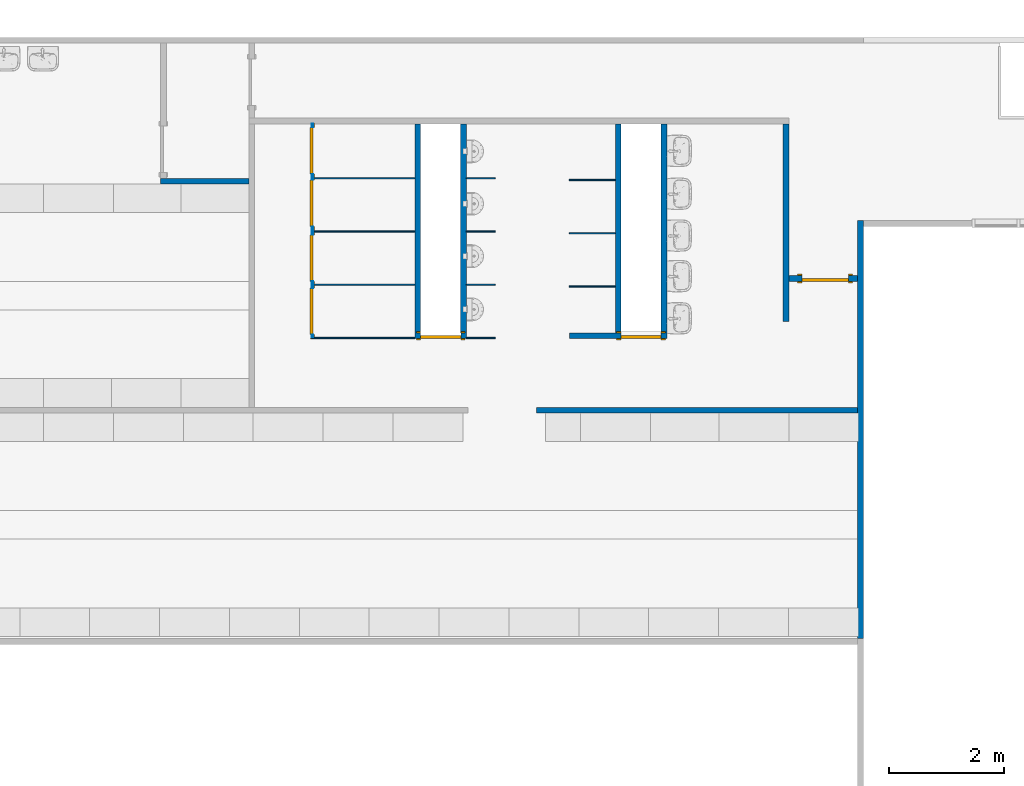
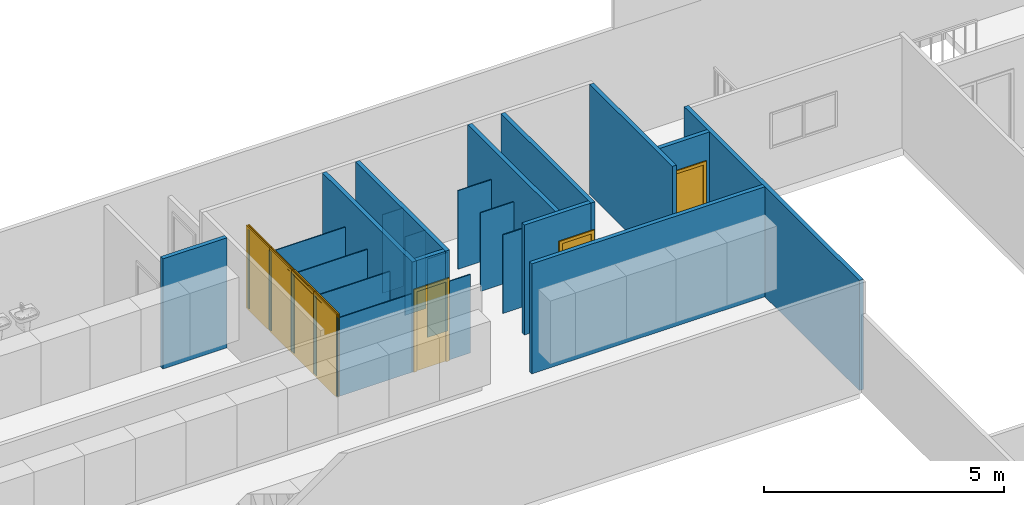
# One storey, part 6 of 14: 23 walls, 7 doors, 11 openings.
"""IFC2X3 building model written with IfcOpenShell, lengths in millimetres."""

import ifcopenshell
import ifcopenshell.guid

model = None  # the IFC model being written
_history = None  # IfcOwnerHistory: only IFC2X3 demands one
_inside = {}  # id of a spatial element -> (the spatial element, [elements in it])
_under = {}  # id of a project, library or spatial element -> (it, [spatial elements below it])
_declared = {}  # id of a project -> (the project, [libraries it declares])
_typed = {}  # id of a type object -> (the type object, [elements of that type])
_made_of = {}  # id of a material, layer set ... -> (it, [elements and type objects made of it])


def new_model(schema):
    """Start an empty IFC model of exactly this schema.

    Asked for "IFC4X3", IfcOpenShell would pick the latest addendum, in which some entities
    have other attributes; the version numbers below select the first issue.
    IFC2X3 requires an IfcOwnerHistory on every rooted entity: one is made here for all.
    """
    global model, _history
    if schema == "IFC4X3":
        model = ifcopenshell.file(schema_version=(4, 3, 0, 0))
    else:
        model = ifcopenshell.file(schema=schema)
    _inside.clear()
    _under.clear()
    _declared.clear()
    _typed.clear()
    _made_of.clear()
    _history = None
    if model.schema == "IFC2X3":
        org = make("IfcOrganization", Name="unknown")
        user = make(
            "IfcPersonAndOrganization",
            ThePerson=make("IfcPerson", FamilyName="unknown"),
            TheOrganization=org,
        )
        app = make(
            "IfcApplication",
            ApplicationDeveloper=org,
            Version="unknown",
            ApplicationFullName="unknown",
            ApplicationIdentifier="unknown",
        )
        _history = make(
            "IfcOwnerHistory",
            OwningUser=user,
            OwningApplication=app,
            ChangeAction="ADDED",
            CreationDate=0,
        )
    return model


def make(cls, **values):
    """One entity of the class cls with the attributes given. An attribute that is None is left unset."""
    return model.create_entity(
        cls, **{name: value for name, value in values.items() if value is not None}
    )


def entity(cls, *values):
    """Any entity or typed value of the class cls, its attributes in the order of the schema. None: left unset."""
    e = model.create_entity(cls)
    for i, value in enumerate(values):
        if value is not None:
            e[i] = value
    return e


def rooted(cls, **values):
    """An entity with a GlobalId (a new one), such as an element, a storey or a relation."""
    return make(cls, GlobalId=ifcopenshell.guid.new(), OwnerHistory=_history, **values)


def si_unit(unit_type, name, prefix=None):
    """IfcSIUnit, for example si_unit("LENGTHUNIT", "METRE", prefix="MILLI")."""
    return make("IfcSIUnit", UnitType=unit_type, Prefix=prefix, Name=name)


def converted_unit(unit_type, name, factor, base, dimensions=None, offset=None):
    """IfcConversionBasedUnit, such as the inch: factor (a typed value) times the base unit."""
    return make(
        "IfcConversionBasedUnit"
        if offset is None
        else "IfcConversionBasedUnitWithOffset",
        ConversionOffset=offset,
        Dimensions=None
        if dimensions is None
        else entity("IfcDimensionalExponents", *dimensions),
        UnitType=unit_type,
        Name=name,
        ConversionFactor=make(
            "IfcMeasureWithUnit", ValueComponent=factor, UnitComponent=base
        ),
    )


def derived_unit(unit_type, elements):
    """IfcDerivedUnit: a product of units, each with its exponent."""
    return make(
        "IfcDerivedUnit",
        Elements=[
            make("IfcDerivedUnitElement", Unit=unit, Exponent=power)
            for unit, power in elements
        ],
        UnitType=unit_type,
    )


def assignment(units):
    """IfcUnitAssignment: the units of a project."""
    return None if units is None else make("IfcUnitAssignment", Units=units)


def point(xyz):
    """IfcCartesianPoint."""
    return None if xyz is None else make("IfcCartesianPoint", Coordinates=xyz)


def direction(xyz):
    """IfcDirection."""
    return None if xyz is None else make("IfcDirection", DirectionRatios=xyz)


def frame(location, z_axis=None, x_axis=None):
    """IfcAxis2Placement3D, a coordinate frame: its origin and axes. An axis left out is left unset."""
    return make(
        "IfcAxis2Placement3D",
        Location=point(location),
        Axis=direction(z_axis),
        RefDirection=direction(x_axis),
    )


def frame_2d(location, x_axis=None):
    """IfcAxis2Placement2D, a coordinate frame in the plane: its origin and x axis."""
    return make(
        "IfcAxis2Placement2D", Location=point(location), RefDirection=direction(x_axis)
    )


def origin():
    """The frame at (0, 0, 0) with its axes left unset."""
    return frame((0.0, 0.0, 0.0))


def origin_2d_with_axis():
    """The frame at (0, 0) in the plane with the x axis (1, 0) written out."""
    return frame_2d((0.0, 0.0), x_axis=(1.0, 0.0))


def place(relative_to, where):
    """IfcLocalPlacement: puts the frame where relative to a parent placement (None: the world)."""
    return make(
        "IfcLocalPlacement", PlacementRelTo=relative_to, RelativePlacement=where
    )


def context(
    kind, dimensions, precision=None, world=None, true_north=None, identifier=None
):
    """IfcGeometricRepresentationContext, for example the 3D "Model" context."""
    return make(
        "IfcGeometricRepresentationContext",
        ContextIdentifier=identifier,
        ContextType=kind,
        CoordinateSpaceDimension=dimensions,
        Precision=precision,
        WorldCoordinateSystem=world,
        TrueNorth=true_north,
    )


def subcontext(parent, identifier, kind, view, scale=None):
    """IfcGeometricRepresentationSubContext, for example "Body" below "Model"."""
    return make(
        "IfcGeometricRepresentationSubContext",
        ContextIdentifier=identifier,
        ContextType=kind,
        ParentContext=parent,
        TargetScale=scale,
        TargetView=view,
    )


def project(units=None, contexts=None):
    """IfcProject with its units and contexts."""
    return rooted(
        "IfcProject",
        Name="project",
        RepresentationContexts=contexts,
        UnitsInContext=assignment(units),
    )


def spatial(cls, under=None, at=None, **own):
    """A site, building, storey or space (cls), placed at a placement, below another one or the project."""
    s = rooted(cls, ObjectPlacement=at, **own)
    if under is not None:
        _under.setdefault(under.id(), (under, []))[1].append(s)
    return s


def polyline(points):
    """IfcPolyline through the points."""
    return make("IfcPolyline", Points=[point(p) for p in points])


def profile(cls, at=None, kind="AREA", **sizes):
    """A parametric profile (cls). Its sizes go by their IFC names, for example OverallWidth=200.0."""
    return make(cls, ProfileType=kind, Position=at, **sizes)


def rectangle(**sizes):
    """IfcRectangleProfileDef."""
    return profile("IfcRectangleProfileDef", **sizes)


def outline(outer, holes=None, kind="AREA"):
    """IfcArbitraryClosedProfileDef: a profile drawn as a closed curve; with holes, ...WithVoids."""
    if holes is None:
        return make("IfcArbitraryClosedProfileDef", ProfileType=kind, OuterCurve=outer)
    return make(
        "IfcArbitraryProfileDefWithVoids",
        ProfileType=kind,
        OuterCurve=outer,
        InnerCurves=holes,
    )


def extrude(swept, where, along, depth):
    """IfcExtrudedAreaSolid: the profile swept, set in the frame where, extruded along a direction by depth."""
    return make(
        "IfcExtrudedAreaSolid",
        SweptArea=swept,
        Position=where,
        ExtrudedDirection=direction(along),
        Depth=depth,
    )


def shape(context_of_items, identifier, shape_type, items):
    """IfcShapeRepresentation: the items that make up one representation, for example the "Body"."""
    return make(
        "IfcShapeRepresentation",
        ContextOfItems=context_of_items,
        RepresentationIdentifier=identifier,
        RepresentationType=shape_type,
        Items=items,
    )


def source(mapping_origin, context_of_items, identifier, shape_type, items):
    """IfcRepresentationMap: a shape defined once, which mapped items show again and again."""
    return make(
        "IfcRepresentationMap",
        MappingOrigin=mapping_origin,
        MappedRepresentation=shape(context_of_items, identifier, shape_type, items),
    )


def transform(
    local_origin,
    x_axis=None,
    y_axis=None,
    z_axis=None,
    scale=None,
    scale2=None,
    scale3=None,
    uniform=True,
):
    """IfcCartesianTransformationOperator3D, or its non-uniform kind. x_axis, y_axis, z_axis: its Axis1, 2, 3."""
    if uniform:
        return make(
            "IfcCartesianTransformationOperator3D",
            Axis1=direction(x_axis),
            Axis2=direction(y_axis),
            LocalOrigin=point(local_origin),
            Scale=scale,
            Axis3=direction(z_axis),
        )
    return make(
        "IfcCartesianTransformationOperator3DnonUniform",
        Axis1=direction(x_axis),
        Axis2=direction(y_axis),
        LocalOrigin=point(local_origin),
        Scale=scale,
        Axis3=direction(z_axis),
        Scale2=scale2,
        Scale3=scale3,
    )


def mapped(mapping_source, mapping_target):
    """IfcMappedItem: shows the shape of a source again, moved by a transform."""
    return make(
        "IfcMappedItem", MappingSource=mapping_source, MappingTarget=mapping_target
    )


def material(Name=None, Category=None):
    """IfcMaterial."""
    return make("IfcMaterial", Name=Name, Category=Category)


def material_list(materials):
    """IfcMaterialList."""
    return make("IfcMaterialList", Materials=materials)


def layer(
    of_material, thickness, ventilated=None, Name=None, Category=None, Priority=None
):
    """IfcMaterialLayer: one layer of a wall or slab, of a material (None: an air gap)."""
    return make(
        "IfcMaterialLayer",
        Material=of_material,
        LayerThickness=thickness,
        IsVentilated=ventilated,
        Name=Name,
        Category=Category,
        Priority=Priority,
    )


def layer_set(layers, Name=None):
    """IfcMaterialLayerSet."""
    return make("IfcMaterialLayerSet", MaterialLayers=layers, LayerSetName=Name)


def layer_usage(for_layer_set, set_direction, sense, offset, extent=None):
    """IfcMaterialLayerSetUsage: how a layer set lies in its element."""
    return make(
        "IfcMaterialLayerSetUsage",
        ForLayerSet=for_layer_set,
        LayerSetDirection=set_direction,
        DirectionSense=sense,
        OffsetFromReferenceLine=offset,
        ReferenceExtent=extent,
    )


def made_of(thing, what):
    """Note that an element or type object is made of a material, layer set ...; save() writes the relation."""
    if what is not None:
        _made_of.setdefault(what.id(), (what, []))[1].append(thing)
    return thing


def type_object(cls, material=None, **own):
    """A type object (cls), such as IfcWallType, which elements share."""
    return made_of(rooted(cls, **own), material)


def type_shapes(of_type, sources):
    """Give a type object the sources (RepresentationMaps) that its elements show as mapped items."""
    of_type.RepresentationMaps = sources


def element(
    cls,
    number,
    at=None,
    inside=None,
    cuts=None,
    type_object=None,
    material=None,
    context=None,
    identifier="Body",
    shape_type=None,
    held_by="IfcProductDefinitionShape",
    body=None,
    shapes=None,
    **own,
):
    """One element of the class cls, such as IfcWall. Its Tag is "e" and its number.

    at: its placement. inside: the storey or other place that contains it. cuts: it is an
    opening in that element (IfcRelVoidsElement). A single representation is given by context,
    identifier, shape_type and body (its items); several are given by shapes. held_by: the class
    of the entity that holds the representations. save() writes the other relations.
    """
    e = rooted(cls, Tag="e%d" % number, ObjectPlacement=at, **own)
    if body is not None:
        shapes = [shape(context, identifier, shape_type, body)]
    if shapes is not None:
        e.Representation = make(held_by, Representations=shapes)
    if inside is not None:
        _inside.setdefault(inside.id(), (inside, []))[1].append(e)
    if cuts is not None:
        rooted(
            "IfcRelVoidsElement", RelatingBuildingElement=cuts, RelatedOpeningElement=e
        )
    if type_object is not None:
        _typed.setdefault(type_object.id(), (type_object, []))[1].append(e)
    return made_of(e, material)


def fill(opening, filler):
    """IfcRelFillsElement: the door or window that sits in an opening."""
    return rooted(
        "IfcRelFillsElement",
        RelatingOpeningElement=opening,
        RelatedBuildingElement=filler,
    )


def aggregate(whole, parts):
    """IfcRelAggregates: a whole, such as a stair, and the parts it consists of."""
    return rooted("IfcRelAggregates", RelatingObject=whole, RelatedObjects=parts)


def save(model, path):
    """Write the relations noted so far, then the file.

    IfcRelAggregates (storeys below a building ...), IfcRelContainedInSpatialStructure (elements
    in a storey), IfcRelDefinesByType, IfcRelAssociatesMaterial and IfcRelDeclares: one each for
    every whole, place, type object, material and project.
    """
    for whole, parts in _under.values():
        aggregate(whole, parts)
    for where, things in _inside.values():
        rooted(
            "IfcRelContainedInSpatialStructure",
            RelatedElements=things,
            RelatingStructure=where,
        )
    for kind, things in _typed.values():
        rooted("IfcRelDefinesByType", RelatedObjects=things, RelatingType=kind)
    for what, things in _made_of.values():
        rooted("IfcRelAssociatesMaterial", RelatedObjects=things, RelatingMaterial=what)
    for by, libraries in _declared.values():
        rooted("IfcRelDeclares", RelatingContext=by, RelatedDefinitions=libraries)
    model.write(path)


model = new_model("IFC2X3")

# Units and contexts
model_context = context("Model", 3, precision=0.01, world=origin(), true_north=direction((4.05803320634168e-15, -1.0)))
body_context = subcontext(model_context, "Body", "Model", "MODEL_VIEW")
ifc_project = project(units=[si_unit("LENGTHUNIT", "METRE", prefix="MILLI"), si_unit("AREAUNIT", "SQUARE_METRE"), si_unit("VOLUMEUNIT", "CUBIC_METRE"), converted_unit("PLANEANGLEUNIT", "DEGREE", entity("IfcRatioMeasure", 0.0174532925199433), si_unit("PLANEANGLEUNIT", "RADIAN"), dimensions=[0, 0, 0, 0, 0, 0, 0]), si_unit("MASSUNIT", "GRAM", prefix="KILO"), derived_unit("MASSDENSITYUNIT", [(si_unit("MASSUNIT", "GRAM", prefix="KILO"), 1), (si_unit("LENGTHUNIT", "METRE"), -3)]), si_unit("TIMEUNIT", "SECOND"), si_unit("FREQUENCYUNIT", "HERTZ"), si_unit("THERMODYNAMICTEMPERATUREUNIT", "DEGREE_CELSIUS"), derived_unit("THERMALTRANSMITTANCEUNIT", [(si_unit("MASSUNIT", "GRAM", prefix="KILO"), 1), (si_unit("THERMODYNAMICTEMPERATUREUNIT", "KELVIN"), -1), (si_unit("TIMEUNIT", "SECOND"), -3)]), derived_unit("VOLUMETRICFLOWRATEUNIT", [(si_unit("LENGTHUNIT", "METRE"), 3), (si_unit("TIMEUNIT", "SECOND"), -1)]), si_unit("ELECTRICCURRENTUNIT", "AMPERE"), si_unit("ELECTRICVOLTAGEUNIT", "VOLT"), si_unit("POWERUNIT", "WATT"), si_unit("FORCEUNIT", "NEWTON", prefix="KILO"), si_unit("ILLUMINANCEUNIT", "LUX"), si_unit("LUMINOUSFLUXUNIT", "LUMEN"), si_unit("LUMINOUSINTENSITYUNIT", "CANDELA"), derived_unit("USERDEFINED", [(si_unit("MASSUNIT", "GRAM", prefix="KILO"), -1), (si_unit("LENGTHUNIT", "METRE"), -2), (si_unit("TIMEUNIT", "SECOND"), 3), (si_unit("LUMINOUSFLUXUNIT", "LUMEN"), 1)]), derived_unit("LINEARVELOCITYUNIT", [(si_unit("LENGTHUNIT", "METRE"), 1), (si_unit("TIMEUNIT", "SECOND"), -1)]), si_unit("PRESSUREUNIT", "PASCAL"), derived_unit("USERDEFINED", [(si_unit("LENGTHUNIT", "METRE"), -2), (si_unit("MASSUNIT", "GRAM", prefix="KILO"), 1), (si_unit("TIMEUNIT", "SECOND"), -2)])], contexts=[model_context])

# Site, building, storey
site_placement = place(None, frame((927466.849349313, 583801.882853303, 0.0), z_axis=(0.0, 0.0, 1.0), x_axis=(-1.0, 0.0, 0.0)))
site = spatial("IfcSite", under=ifc_project, at=site_placement, Name="Surface", CompositionType="ELEMENT")
building_placement = place(site_placement, origin())
building = spatial("IfcBuilding", under=site, at=building_placement, CompositionType="ELEMENT")
storey_placement = place(building_placement, frame((0.0, 0.0, 48170.0)))
storey = spatial("IfcBuildingStorey", under=building, at=storey_placement, Name="First floor", CompositionType="ELEMENT", Elevation=48170.0)

# Walls
ifc_material_1 = material(Name="Isopenal")
ifc_layer_1 = layer(ifc_material_1, 100.0)
ifc_layer_set_1 = layer_set([ifc_layer_1], Name="Basic Wall:Isopanel")
ifc_layer_usage_1 = layer_usage(ifc_layer_set_1, "AXIS2", "NEGATIVE", 50.0)
wall_type_1 = type_object("IfcWallType", Name="Basic Wall:Isopanel", PredefinedType="STANDARD", material=ifc_layer_set_1)
wall_1_placement = place(storey_placement, frame((-104897.937276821, 15107.4703266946, 0.0), z_axis=(0.0, 0.0, 1.0), x_axis=(0.0, 1.0, 0.0)))
element("IfcWallStandardCase", 1, at=wall_1_placement, inside=storey, type_object=wall_type_1, material=ifc_layer_usage_1, Name="Basic Wall:Isopanel", ObjectType="Basic Wall:Isopanel", context=body_context, shape_type="SweptSolid", body=[
    extrude(rectangle(XDim=7300.00000000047, YDim=100.000000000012, at=frame_2d((3650.00000000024, 1.08002495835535e-12), x_axis=(-1.0, 0.0))), origin(), (0.0, 0.0, 1.0), 2800.0),
])
ifc_material_2 = material(Name="Partition")
ifc_layer_2 = layer(ifc_material_2, 100.0)
ifc_layer_set_2 = layer_set([ifc_layer_2], Name="Basic Wall:wall 90 Partition")
ifc_layer_usage_2 = layer_usage(ifc_layer_set_2, "AXIS2", "NEGATIVE", 50.0)
wall_type_2 = type_object("IfcWallType", Name="Basic Wall:wall 90 Partition", PredefinedType="STANDARD", material=ifc_layer_set_2)
wall_2_placement = place(storey_placement, frame((-103597.796161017, 16869.2679026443, 0.0), z_axis=(0.0, 0.0, 1.0), x_axis=(0.0, -1.0, 0.0)))
element("IfcWallStandardCase", 2, at=wall_2_placement, inside=storey, type_object=wall_type_2, material=ifc_layer_usage_2, Name="Basic Wall:wall 90 Partition", ObjectType="Basic Wall:wall 90 Partition", context=body_context, shape_type="SweptSolid", body=[
    extrude(rectangle(XDim=3450.0, YDim=100.000000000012, at=frame_2d((1725.0, -3.08730818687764e-12), x_axis=(-1.0, 0.0))), origin(), (0.0, 0.0, 1.0), 2800.0),
])

# Wall, opening, door
ifc_layer_usage_3 = layer_usage(ifc_layer_set_2, "AXIS2", "NEGATIVE", 50.0)
wall_3_placement = place(storey_placement, frame((-104847.937276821, 16119.313165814, 0.0)))
wall_3 = element("IfcWallStandardCase", 3, at=wall_3_placement, inside=storey, type_object=wall_type_2, material=ifc_layer_usage_3, Name="Basic Wall:wall 90 Partition", ObjectType="Basic Wall:wall 90 Partition", context=body_context, shape_type="SweptSolid", body=[
    extrude(rectangle(XDim=1200.14111580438, YDim=99.9999999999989, at=frame_2d((600.07055790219, -4.47641923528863e-13), x_axis=(-1.0, 0.0))), origin(), (0.0, 0.0, 1.0), 2800.0),
])
opening_1_placement = place(wall_3_placement, frame((163.641115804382, -50.0, 0.0)))
opening_1 = element("IfcOpeningElement", 4, at=opening_1_placement, cuts=wall_3, Name="M_Single-Flush:813 x 2030mm:1", ObjectType="Opening", context=body_context, shape_type="SweptSolid", body=[
    extrude(rectangle(XDim=813.0, YDim=2030.0, at=frame_2d((1015.0, 406.500000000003), x_axis=(0.0, -1.0))), frame((0.0, 0.0, 0.0), z_axis=(0.0, 1.0, 0.0), x_axis=(0.0, 0.0, 1.0)), (0.0, 0.0, 1.0), 100.0),
])
ifc_material_3 = material(Name="Door - Frame")
ifc_material_4 = material(Name="Door - Panel")
ifc_material_list_1 = material_list([ifc_material_3, ifc_material_4])
ifc_material_list_2 = material_list([ifc_material_3, ifc_material_4])
door_style_1 = type_object("IfcDoorStyle", Name="813 x 2030mm", ConstructionType="NOTDEFINED", OperationType="SINGLE_SWING_LEFT", ParameterTakesPrecedence=False, Sizeable=False, material=ifc_material_list_2)
shared_shape_1 = source(origin(), body_context, "Body", "SweptSolid", [
    extrude(outline(polyline([(-482.5, -1072.0), (482.5, -1072.0), (482.5, 1034.0), (406.5, 1034.0), (406.5, -996.0), (-406.5, -996.0), (-406.5, 1034.0), (-482.5, 1034.0), (-482.5, -1072.0)])), frame((406.5, 125.0, 1034.0), z_axis=(0.0, -1.0, 0.0), x_axis=(-1.0, 0.0, 0.0)), (0.0, 0.0, 1.0), 24.9999999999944),
    extrude(outline(polyline([(-1072.0, -482.499999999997), (1034.0, -482.499999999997), (1034.0, -406.500000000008), (-996.0, -406.500000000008), (-996.0, 406.500000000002), (1034.0, 406.500000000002), (1034.0, 482.500000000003), (-1072.0, 482.500000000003), (-1072.0, -482.499999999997)])), frame((406.499999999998, 0.0, 1034.0), z_axis=(0.0, -1.0, 0.0), x_axis=(0.0, 0.0, -1.0)), (0.0, 0.0, 1.0), 25.0000000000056),
    extrude(rectangle(XDim=813.0, YDim=51.0, at=origin_2d_with_axis()), frame((406.500000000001, 74.4999999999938, 0.0)), (0.0, 0.0, 1.0), 2030.0),
])
type_shapes(door_style_1, [shared_shape_1])
door_1_placement = place(opening_1_placement, origin())
door_1 = element("IfcDoor", 5, at=door_1_placement, inside=storey, type_object=door_style_1, material=ifc_material_list_1, Name="M_Single-Flush:813 x 2030mm", ObjectType="813 x 2030mm", OverallHeight=2030.0, OverallWidth=813.000000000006, context=body_context, shape_type="MappedRepresentation", body=[
    mapped(shared_shape_1, transform((0.0, 0.0, 0.0), scale=1.0)),
])
fill(opening_1, door_1)

# Walls
ifc_layer_usage_4 = layer_usage(ifc_layer_set_2, "AXIS2", "POSITIVE", -50.0)
wall_4_placement = place(storey_placement, frame((-99242.9194516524, 18419.2777512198, 0.0), z_axis=(0.0, 0.0, 1.0), x_axis=(-1.0, 0.0, 0.0)))
element("IfcWallStandardCase", 6, at=wall_4_placement, inside=storey, type_object=wall_type_2, material=ifc_layer_usage_4, Name="Basic Wall:wall 90 Partition", ObjectType="Basic Wall:wall 90 Partition", context=body_context, shape_type="SweptSolid", body=[
    extrude(rectangle(XDim=5605.01782516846, YDim=99.9999999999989, at=frame_2d((2802.50891258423, 3.44613226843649e-13), x_axis=(-1.0, 0.0))), origin(), (0.0, 0.0, 1.0), 2800.0),
])
ifc_layer_usage_5 = layer_usage(ifc_layer_set_2, "AXIS2", "POSITIVE", -50.0)
wall_5_placement = place(storey_placement, frame((-92674.9288686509, 14419.2762492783, 0.0), z_axis=(0.0, 0.0, 1.0), x_axis=(-1.0, 0.0, 0.0)))
element("IfcWallStandardCase", 7, at=wall_5_placement, inside=storey, type_object=wall_type_2, material=ifc_layer_usage_5, Name="Basic Wall:wall 90 Partition", ObjectType="Basic Wall:wall 90 Partition", context=body_context, shape_type="SweptSolid", body=[
    extrude(rectangle(XDim=1539.76678471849, YDim=99.9999999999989, at=frame_2d((769.883392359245, -5.61328761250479e-13), x_axis=(-1.0, 0.0))), origin(), (0.0, 0.0, 1.0), 2800.0),
])

# Wall, opening
ifc_layer_usage_6 = layer_usage(ifc_layer_set_2, "AXIS2", "NEGATIVE", 50.0)
wall_6_placement = place(storey_placement, frame((-101464.708959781, 17169.2679026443, 0.0), z_axis=(0.0, 0.0, 1.0), x_axis=(0.0, -1.0, 0.0)))
wall_6 = element("IfcWallStandardCase", 8, at=wall_6_placement, inside=storey, type_object=wall_type_2, material=ifc_layer_usage_6, Name="Basic Wall:wall 90 Partition", ObjectType="Basic Wall:wall 90 Partition", context=body_context, shape_type="SweptSolid", body=[
    extrude(rectangle(XDim=3750.0, YDim=100.000000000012, at=frame_2d((1875.0, -2.60769184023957e-12), x_axis=(-1.0, 0.0))), origin(), (0.0, 0.0, 1.0), 2800.0),
])
opening_2_placement = place(wall_6_placement, origin())
element("IfcOpeningElement", 9, at=opening_2_placement, cuts=wall_6, Name="Basic Wall:wall 90 Partition", ObjectType="Opening", context=body_context, shape_type="SweptSolid", body=[
    extrude(rectangle(XDim=2030.0, YDim=100.000000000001, at=frame_2d((1.08357767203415e-12, 4.32009983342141e-12), x_axis=(0.0, 1.0))), frame((50.0, 49.3453725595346, 1015.0), z_axis=(0.0, 1.0, 0.0), x_axis=(-1.0, 0.0, 0.0)), (0.0, 0.0, 1.0), 700.000000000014),
])

ifc_layer_usage_7 = layer_usage(ifc_layer_set_2, "AXIS2", "NEGATIVE", 50.0)
wall_7_placement = place(storey_placement, frame((-100664.708959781, 17069.2679026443, 0.0), z_axis=(0.0, 0.0, 1.0), x_axis=(0.0, -1.0, 0.0)))
wall_7 = element("IfcWallStandardCase", 10, at=wall_7_placement, inside=storey, type_object=wall_type_2, material=ifc_layer_usage_7, Name="Basic Wall:wall 90 Partition", ObjectType="Basic Wall:wall 90 Partition", context=body_context, shape_type="SweptSolid", body=[
    extrude(rectangle(XDim=3650.0, YDim=100.000000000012, at=frame_2d((1825.0, -2.76756395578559e-12), x_axis=(-1.0, 0.0))), origin(), (0.0, 0.0, 1.0), 2800.0),
])
opening_3_placement = place(wall_7_placement, origin())
element("IfcOpeningElement", 11, at=opening_3_placement, cuts=wall_7, Name="Basic Wall:wall 90 Partition", ObjectType="Opening", context=body_context, shape_type="SweptSolid", body=[
    extrude(rectangle(XDim=2030.0, YDim=100.000000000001, at=frame_2d((1.08357767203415e-12, 4.32009983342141e-12), x_axis=(0.0, 1.0))), frame((-50.0, -750.654627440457, 1015.0), z_axis=(0.0, 1.0, 0.0), x_axis=(-1.0, 0.0, 0.0)), (0.0, 0.0, 1.0), 700.000000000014),
])

ifc_layer_usage_8 = layer_usage(ifc_layer_set_2, "AXIS2", "NEGATIVE", 50.0)
wall_8_placement = place(storey_placement, frame((-97964.7089597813, 17169.2679026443, 0.0), z_axis=(0.0, 0.0, 1.0), x_axis=(0.0, -1.0, 0.0)))
wall_8 = element("IfcWallStandardCase", 12, at=wall_8_placement, inside=storey, type_object=wall_type_2, material=ifc_layer_usage_8, Name="Basic Wall:wall 90 Partition", ObjectType="Basic Wall:wall 90 Partition", context=body_context, shape_type="SweptSolid", body=[
    extrude(rectangle(XDim=3750.0, YDim=100.000000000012, at=frame_2d((1875.0, -2.60769184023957e-12), x_axis=(-1.0, 0.0))), origin(), (0.0, 0.0, 1.0), 2800.0),
])
opening_4_placement = place(wall_8_placement, origin())
element("IfcOpeningElement", 13, at=opening_4_placement, cuts=wall_8, Name="Basic Wall:wall 90 Partition", ObjectType="Opening", context=body_context, shape_type="SweptSolid", body=[
    extrude(rectangle(XDim=2030.0, YDim=100.000000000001, at=frame_2d((-1.08357767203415e-12, 4.32009983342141e-12), x_axis=(0.0, 1.0))), frame((50.0, 47.3188890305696, 1015.0), z_axis=(0.0, 1.0, 0.0), x_axis=(-1.0, 0.0, 0.0)), (0.0, 0.0, 1.0), 700.000000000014),
])

# Wall
ifc_layer_usage_9 = layer_usage(ifc_layer_set_2, "AXIS2", "NEGATIVE", 50.0)
wall_9_placement = place(storey_placement, frame((-97164.7089597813, 17169.2679026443, 0.0), z_axis=(0.0, 0.0, 1.0), x_axis=(0.0, -1.0, 0.0)))
element("IfcWallStandardCase", 14, at=wall_9_placement, inside=storey, type_object=wall_type_2, material=ifc_layer_usage_9, Name="Basic Wall:wall 90 Partition", ObjectType="Basic Wall:wall 90 Partition", context=body_context, shape_type="SweptSolid", body=[
    extrude(rectangle(XDim=3750.0, YDim=100.000000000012, at=frame_2d((1875.0, -2.60769184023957e-12), x_axis=(-1.0, 0.0))), origin(), (0.0, 0.0, 1.0), 2800.0),
])

# Wall, opening, door
ifc_layer_usage_10 = layer_usage(ifc_layer_set_2, "AXIS2", "POSITIVE", -50.0)
wall_10_placement = place(storey_placement, frame((-97214.7089597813, 17119.2679026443, 0.0), z_axis=(0.0, 0.0, 1.0), x_axis=(-1.0, 0.0, 0.0)))
wall_10 = element("IfcWallStandardCase", 15, at=wall_10_placement, inside=storey, type_object=wall_type_2, material=ifc_layer_usage_10, Name="Basic Wall:wall 90 Partition", ObjectType="Basic Wall:wall 90 Partition", context=body_context, shape_type="SweptSolid", body=[
    extrude(rectangle(XDim=699.999999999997, YDim=99.9999999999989, at=frame_2d((349.999999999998, 4.2632564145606e-14), x_axis=(-1.0, 0.0))), origin(), (0.0, 0.0, 1.0), 2800.0),
])
opening_5_placement = place(wall_10_placement, frame((702.68111096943, 50.0, 0.0)))
opening_5 = element("IfcOpeningElement", 16, at=opening_5_placement, cuts=wall_10, Name="M_Single-Flush:700 x 2030mm:1", ObjectType="Opening", context=body_context, shape_type="SweptSolid", body=[
    extrude(rectangle(XDim=700.0, YDim=2030.0, at=frame_2d((1015.0, 350.000000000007), x_axis=(0.0, 1.0))), frame((0.0, 0.0, 0.0), z_axis=(0.0, -1.0, 0.0), x_axis=(0.0, 0.0, 1.0)), (0.0, 0.0, 1.0), 100.0),
])
ifc_material_list_3 = material_list([ifc_material_3, ifc_material_4])
ifc_material_list_4 = material_list([ifc_material_3, ifc_material_4])
door_style_2 = type_object("IfcDoorStyle", Name="700 x 2030mm", ConstructionType="NOTDEFINED", OperationType="SINGLE_SWING_RIGHT", ParameterTakesPrecedence=False, Sizeable=False, material=ifc_material_list_4)
shared_shape_2 = source(origin(), body_context, "Body", "SweptSolid", [
    extrude(outline(polyline([(-426.0, -1072.0), (426.0, -1072.0), (426.0, 1034.0), (350.0, 1034.0), (350.0, -996.0), (-350.0, -996.0), (-350.0, 1034.0), (-426.0, 1034.0), (-426.0, -1072.0)])), frame((350.0, 100.0, 1034.0), z_axis=(0.0, 1.0, 0.0), x_axis=(1.0, 0.0, 0.0)), (0.0, 0.0, 1.0), 24.9999999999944),
    extrude(outline(polyline([(-1072.0, -426.0), (1034.0, -426.0), (1034.0, -350.0), (-996.0, -350.0), (-996.0, 350.0), (1034.0, 350.0), (1034.0, 426.0), (-1072.0, 426.0), (-1072.0, -426.0)])), frame((350.0, -25.0, 1034.0), z_axis=(0.0, 1.0, 0.0), x_axis=(0.0, 0.0, -1.0)), (0.0, 0.0, 1.0), 25.0000000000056),
    extrude(rectangle(XDim=51.0, YDim=700.0, at=origin_2d_with_axis()), frame((350.0, 74.5000000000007, 0.0), z_axis=(0.0, 0.0, 1.0), x_axis=(0.0, 1.0, 0.0)), (0.0, 0.0, 1.0), 2030.0),
])
type_shapes(door_style_2, [shared_shape_2])
door_2_placement = place(opening_5_placement, frame((0.0, 0.0, 0.0), z_axis=(0.0, 0.0, 1.0), x_axis=(-1.0, 0.0, 0.0)))
door_2 = element("IfcDoor", 17, at=door_2_placement, inside=storey, type_object=door_style_2, material=ifc_material_list_3, Name="M_Single-Flush:700 x 2030mm", ObjectType="700 x 2030mm", OverallHeight=2030.0, OverallWidth=700.000000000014, context=body_context, shape_type="MappedRepresentation", body=[
    mapped(shared_shape_2, transform((0.0, 0.0, 0.0), scale=1.0)),
])
fill(opening_5, door_2)

ifc_layer_usage_11 = layer_usage(ifc_layer_set_2, "AXIS2", "POSITIVE", -50.0)
wall_11_placement = place(storey_placement, frame((-99814.7089597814, 17119.2679026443, 0.0), z_axis=(0.0, 0.0, 1.0), x_axis=(-1.0, 0.0, 0.0)))
wall_11 = element("IfcWallStandardCase", 18, at=wall_11_placement, inside=storey, type_object=wall_type_2, material=ifc_layer_usage_11, Name="Basic Wall:wall 90 Partition", ObjectType="Basic Wall:wall 90 Partition", context=body_context, shape_type="SweptSolid", body=[
    extrude(rectangle(XDim=1599.99999999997, YDim=99.9999999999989, at=frame_2d((799.999999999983, -3.73034936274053e-13), x_axis=(-1.0, 0.0))), origin(), (0.0, 0.0, 1.0), 2800.0),
])
opening_6_placement = place(wall_11_placement, frame((1600.65462744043, 50.0, 0.0)))
opening_6 = element("IfcOpeningElement", 19, at=opening_6_placement, cuts=wall_11, Name="M_Single-Flush:700 x 2030mm:1", ObjectType="Opening", context=body_context, shape_type="SweptSolid", body=[
    extrude(rectangle(XDim=700.0, YDim=2030.0, at=frame_2d((1015.0, 350.000000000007), x_axis=(0.0, 1.0))), frame((0.0, 0.0, 0.0), z_axis=(0.0, -1.0, 0.0), x_axis=(0.0, 0.0, 1.0)), (0.0, 0.0, 1.0), 100.0),
])
ifc_material_list_5 = material_list([ifc_material_3, ifc_material_4])
door_3_placement = place(opening_6_placement, frame((0.0, 0.0, 0.0), z_axis=(0.0, 0.0, 1.0), x_axis=(-1.0, 0.0, 0.0)))
door_3 = element("IfcDoor", 20, at=door_3_placement, inside=storey, type_object=door_style_2, material=ifc_material_list_5, Name="M_Single-Flush:700 x 2030mm", ObjectType="700 x 2030mm", OverallHeight=2030.0, OverallWidth=700.000000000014, context=body_context, shape_type="MappedRepresentation", body=[
    mapped(shared_shape_2, transform((0.0, 0.0, 0.0), scale=1.0)),
])
fill(opening_6, door_3)

# Wall
ifc_layer_3 = layer(ifc_material_2, 22.0)
ifc_layer_set_3 = layer_set([ifc_layer_3], Name="Basic Wall:22 Partition")
ifc_layer_usage_12 = layer_usage(ifc_layer_set_3, "AXIS2", "NEGATIVE", 11.0)
wall_type_3 = type_object("IfcWallType", Name="Basic Wall:22 Partition", PredefinedType="STANDARD", material=ifc_layer_set_3)
wall_12_placement = place(storey_placement, frame((-97114.7089597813, 17158.2679026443, 0.0)))
element("IfcWallStandardCase", 21, at=wall_12_placement, inside=storey, type_object=wall_type_3, material=ifc_layer_usage_12, Name="Basic Wall:22 Partition", ObjectType="Basic Wall:22 Partition", context=body_context, shape_type="SweptSolid", body=[
    extrude(rectangle(XDim=1800.01328124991, YDim=21.9999999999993, at=frame_2d((900.006640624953, 0.0), x_axis=(-1.0, 0.0))), origin(), (0.0, 0.0, 1.0), 2000.0),
])

# Wall, openings, doors
ifc_layer_usage_13 = layer_usage(ifc_layer_set_3, "AXIS2", "NEGATIVE", 11.0)
wall_13_placement = place(storey_placement, frame((-95325.6956785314, 17147.2679026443, 0.0), z_axis=(0.0, 0.0, 1.0), x_axis=(0.0, -1.0, 0.0)))
wall_13 = element("IfcWallStandardCase", 22, at=wall_13_placement, inside=storey, type_object=wall_type_3, material=ifc_layer_usage_13, Name="Basic Wall:22 Partition", ObjectType="Basic Wall:22 Partition", context=body_context, shape_type="SweptSolid", body=[
    extrude(rectangle(XDim=3728.00000000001, YDim=21.999999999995, at=frame_2d((1864.0, 0.0), x_axis=(-1.0, 0.0))), origin(), (0.0, 0.0, 1.0), 2000.0),
])
opening_7_placement = place(wall_13_placement, frame((3665.49829836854, 11.0, 0.0)))
opening_7 = element("IfcOpeningElement", 23, at=opening_7_placement, cuts=wall_13, Name="M_Single-Flush:0813 x 2030mm:1", ObjectType="Opening", context=body_context, shape_type="SweptSolid", body=[
    extrude(rectangle(XDim=813.0, YDim=2030.0, at=frame_2d((1015.0, 406.5), x_axis=(0.0, 1.0))), frame((0.0, 0.0, 0.0), z_axis=(0.0, -1.0, 0.0), x_axis=(0.0, 0.0, 1.0)), (0.0, 0.0, 1.0), 22.0),
])
opening_8_placement = place(wall_13_placement, frame((2747.99659673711, 11.0, 0.0)))
opening_8 = element("IfcOpeningElement", 24, at=opening_8_placement, cuts=wall_13, Name="M_Single-Flush:0813 x 2030mm:1", ObjectType="Opening", context=body_context, shape_type="SweptSolid", body=[
    extrude(rectangle(XDim=813.0, YDim=2030.0, at=frame_2d((1015.0, 406.5), x_axis=(0.0, 1.0))), frame((0.0, 0.0, 0.0), z_axis=(0.0, -1.0, 0.0), x_axis=(0.0, 0.0, 1.0)), (0.0, 0.0, 1.0), 22.0),
])
opening_9_placement = place(wall_13_placement, frame((1790.49337408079, 11.0, 0.0)))
opening_9 = element("IfcOpeningElement", 25, at=opening_9_placement, cuts=wall_13, Name="M_Single-Flush:0813 x 2030mm:1", ObjectType="Opening", context=body_context, shape_type="SweptSolid", body=[
    extrude(rectangle(XDim=813.0, YDim=2030.0, at=frame_2d((1015.0, 406.5), x_axis=(0.0, 1.0))), frame((0.0, 0.0, 0.0), z_axis=(0.0, -1.0, 0.0), x_axis=(0.0, 0.0, 1.0)), (0.0, 0.0, 1.0), 22.0),
])
opening_10_placement = place(wall_13_placement, frame((860.496149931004, 11.0, 0.0)))
opening_10 = element("IfcOpeningElement", 26, at=opening_10_placement, cuts=wall_13, Name="M_Single-Flush:0813 x 2030mm:1", ObjectType="Opening", context=body_context, shape_type="SweptSolid", body=[
    extrude(rectangle(XDim=813.0, YDim=2030.0, at=frame_2d((1015.0, 406.5), x_axis=(0.0, 1.0))), frame((0.0, 0.0, 0.0), z_axis=(0.0, -1.0, 0.0), x_axis=(0.0, 0.0, 1.0)), (0.0, 0.0, 1.0), 22.0),
])
ifc_material_list_6 = material_list([ifc_material_3, ifc_material_4])
ifc_material_list_7 = material_list([ifc_material_3, ifc_material_4])
door_style_3 = type_object("IfcDoorStyle", Name="0813 x 2030mm", ConstructionType="NOTDEFINED", OperationType="SINGLE_SWING_RIGHT", ParameterTakesPrecedence=False, Sizeable=False, material=ifc_material_list_7)
shared_shape_3 = source(origin(), body_context, "Body", "SweptSolid", [
    extrude(outline(polyline([(-482.5, -1072.0), (482.5, -1072.0), (482.5, 1034.0), (406.5, 1034.0), (406.5, -996.0), (-406.5, -996.0), (-406.5, 1034.0), (-482.5, 1034.0), (-482.5, -1072.0)])), frame((406.500000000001, 22.0, 1034.0), z_axis=(0.0, 1.0, 0.0), x_axis=(1.0, 0.0, 0.0)), (0.0, 0.0, 1.0), 24.9999999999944),
    extrude(outline(polyline([(-1072.0, -482.499999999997), (1034.0, -482.499999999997), (1034.0, -406.500000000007), (-996.0, -406.500000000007), (-996.0, 406.500000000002), (1034.0, 406.500000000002), (1034.0, 482.500000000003), (-1072.0, 482.500000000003), (-1072.0, -482.499999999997)])), frame((406.500000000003, -25.0, 1034.0), z_axis=(0.0, 1.0, 0.0), x_axis=(0.0, 0.0, -1.0)), (0.0, 0.0, 1.0), 25.0000000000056),
    extrude(rectangle(XDim=51.0, YDim=813.0, at=origin_2d_with_axis()), frame((406.500000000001, -3.49999999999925, 0.0), z_axis=(0.0, 0.0, 1.0), x_axis=(0.0, 1.0, 0.0)), (0.0, 0.0, 1.0), 2030.0),
])
type_shapes(door_style_3, [shared_shape_3])
door_4_placement = place(opening_7_placement, frame((0.0, 0.0, 0.0), z_axis=(0.0, 0.0, 1.0), x_axis=(-1.0, 0.0, 0.0)))
door_4 = element("IfcDoor", 27, at=door_4_placement, inside=storey, type_object=door_style_3, material=ifc_material_list_6, Name="M_Single-Flush:0813 x 2030mm", ObjectType="0813 x 2030mm", OverallHeight=2030.0, OverallWidth=812.999999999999, context=body_context, shape_type="MappedRepresentation", body=[
    mapped(shared_shape_3, transform((0.0, 0.0, 0.0), scale=1.0)),
])
fill(opening_7, door_4)
ifc_material_list_8 = material_list([ifc_material_3, ifc_material_4])
door_5_placement = place(opening_8_placement, frame((0.0, 0.0, 0.0), z_axis=(0.0, 0.0, 1.0), x_axis=(-1.0, 0.0, 0.0)))
door_5 = element("IfcDoor", 28, at=door_5_placement, inside=storey, type_object=door_style_3, material=ifc_material_list_8, Name="M_Single-Flush:0813 x 2030mm", ObjectType="0813 x 2030mm", OverallHeight=2030.0, OverallWidth=812.999999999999, context=body_context, shape_type="MappedRepresentation", body=[
    mapped(shared_shape_3, transform((0.0, 0.0, 0.0), scale=1.0)),
])
fill(opening_8, door_5)
ifc_material_list_9 = material_list([ifc_material_3, ifc_material_4])
door_6_placement = place(opening_9_placement, frame((0.0, 0.0, 0.0), z_axis=(0.0, 0.0, 1.0), x_axis=(-1.0, 0.0, 0.0)))
door_6 = element("IfcDoor", 29, at=door_6_placement, inside=storey, type_object=door_style_3, material=ifc_material_list_9, Name="M_Single-Flush:0813 x 2030mm", ObjectType="0813 x 2030mm", OverallHeight=2030.0, OverallWidth=812.999999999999, context=body_context, shape_type="MappedRepresentation", body=[
    mapped(shared_shape_3, transform((0.0, 0.0, 0.0), scale=1.0)),
])
fill(opening_9, door_6)
ifc_material_list_10 = material_list([ifc_material_3, ifc_material_4])
door_7_placement = place(opening_10_placement, frame((0.0, 0.0, 0.0), z_axis=(0.0, 0.0, 1.0), x_axis=(-1.0, 0.0, 0.0)))
door_7 = element("IfcDoor", 30, at=door_7_placement, inside=storey, type_object=door_style_3, material=ifc_material_list_10, Name="M_Single-Flush:0813 x 2030mm", ObjectType="0813 x 2030mm", OverallHeight=2030.0, OverallWidth=812.999999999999, context=body_context, shape_type="MappedRepresentation", body=[
    mapped(shared_shape_3, transform((0.0, 0.0, 0.0), scale=1.0)),
])
fill(opening_10, door_7)

# Walls
ifc_layer_usage_14 = layer_usage(ifc_layer_set_3, "AXIS2", "NEGATIVE", 11.0)
wall_14_placement = place(storey_placement, frame((-97114.7089597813, 16228.2756027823, 0.0)))
element("IfcWallStandardCase", 31, at=wall_14_placement, inside=storey, type_object=wall_type_3, material=ifc_layer_usage_14, Name="Basic Wall:22 Partition", ObjectType="Basic Wall:22 Partition", context=body_context, shape_type="SweptSolid", body=[
    extrude(rectangle(XDim=1778.01328124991, YDim=21.9999999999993, at=frame_2d((889.006640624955, 0.0), x_axis=(-1.0, 0.0))), origin(), (0.0, 0.0, 1.0), 2000.0),
])
ifc_layer_usage_15 = layer_usage(ifc_layer_set_3, "AXIS2", "NEGATIVE", 11.0)
wall_15_placement = place(storey_placement, frame((-97114.7089597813, 15298.2734543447, 0.0)))
element("IfcWallStandardCase", 32, at=wall_15_placement, inside=storey, type_object=wall_type_3, material=ifc_layer_usage_15, Name="Basic Wall:22 Partition", ObjectType="Basic Wall:22 Partition", context=body_context, shape_type="SweptSolid", body=[
    extrude(rectangle(XDim=1778.01328124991, YDim=21.9999999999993, at=frame_2d((889.006640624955, -3.99680288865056e-14), x_axis=(-1.0, 0.0))), origin(), (0.0, 0.0, 1.0), 2000.0),
])
ifc_layer_usage_16 = layer_usage(ifc_layer_set_3, "AXIS2", "NEGATIVE", 11.0)
wall_16_placement = place(storey_placement, frame((-97114.7089597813, 14368.2713059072, 0.0)))
element("IfcWallStandardCase", 33, at=wall_16_placement, inside=storey, type_object=wall_type_3, material=ifc_layer_usage_16, Name="Basic Wall:22 Partition", ObjectType="Basic Wall:22 Partition", context=body_context, shape_type="SweptSolid", body=[
    extrude(rectangle(XDim=1778.01328124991, YDim=21.9999999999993, at=frame_2d((889.006640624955, -1.95399252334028e-14), x_axis=(-1.0, 0.0))), origin(), (0.0, 0.0, 1.0), 2000.0),
])
ifc_layer_usage_17 = layer_usage(ifc_layer_set_3, "AXIS2", "NEGATIVE", 11.0)
wall_17_placement = place(storey_placement, frame((-100614.708959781, 16258.2768723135, 0.0)))
element("IfcWallStandardCase", 34, at=wall_17_placement, inside=storey, type_object=wall_type_3, material=ifc_layer_usage_17, Name="Basic Wall:22 Partition", ObjectType="Basic Wall:22 Partition", context=body_context, shape_type="SweptSolid", body=[
    extrude(rectangle(XDim=799.999999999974, YDim=21.9999999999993, at=frame_2d((399.999999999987, -1.09245945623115e-13), x_axis=(-1.0, 0.0))), origin(), (0.0, 0.0, 1.0), 2000.0),
])
ifc_layer_usage_18 = layer_usage(ifc_layer_set_3, "AXIS2", "NEGATIVE", 11.0)
wall_18_placement = place(storey_placement, frame((-100614.708959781, 15328.2747238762, 0.0)))
element("IfcWallStandardCase", 35, at=wall_18_placement, inside=storey, type_object=wall_type_3, material=ifc_layer_usage_18, Name="Basic Wall:22 Partition", ObjectType="Basic Wall:22 Partition", context=body_context, shape_type="SweptSolid", body=[
    extrude(rectangle(XDim=799.999999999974, YDim=21.9999999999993, at=frame_2d((399.999999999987, -1.19904086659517e-13), x_axis=(-1.0, 0.0))), origin(), (0.0, 0.0, 1.0), 2000.0),
])
ifc_layer_usage_19 = layer_usage(ifc_layer_set_3, "AXIS2", "NEGATIVE", 11.0)
wall_19_placement = place(storey_placement, frame((-100614.708959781, 14398.2725754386, 0.0)))
element("IfcWallStandardCase", 36, at=wall_19_placement, inside=storey, type_object=wall_type_3, material=ifc_layer_usage_19, Name="Basic Wall:22 Partition", ObjectType="Basic Wall:22 Partition", context=body_context, shape_type="SweptSolid", body=[
    extrude(rectangle(XDim=799.999999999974, YDim=21.9999999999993, at=frame_2d((399.999999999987, -1.09245945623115e-13), x_axis=(-1.0, 0.0))), origin(), (0.0, 0.0, 1.0), 2000.0),
])
ifc_layer_usage_20 = layer_usage(ifc_layer_set_3, "AXIS2", "POSITIVE", -11.0)
wall_20_placement = place(storey_placement, frame((-98014.7089597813, 14368.2712865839, 0.0), z_axis=(0.0, 0.0, 1.0), x_axis=(-1.0, 0.0, 0.0)))
element("IfcWallStandardCase", 37, at=wall_20_placement, inside=storey, type_object=wall_type_3, material=ifc_layer_usage_20, Name="Basic Wall:22 Partition", ObjectType="Basic Wall:22 Partition", context=body_context, shape_type="SweptSolid", body=[
    extrude(rectangle(XDim=499.986718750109, YDim=21.9999999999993, at=frame_2d((249.993359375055, 0.0), x_axis=(-1.0, 0.0))), origin(), (0.0, 0.0, 1.0), 2000.0),
])
ifc_layer_usage_21 = layer_usage(ifc_layer_set_3, "AXIS2", "POSITIVE", -11.0)
wall_21_placement = place(storey_placement, frame((-98014.7089597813, 15298.2734350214, 0.0), z_axis=(0.0, 0.0, 1.0), x_axis=(-1.0, 0.0, 0.0)))
element("IfcWallStandardCase", 38, at=wall_21_placement, inside=storey, type_object=wall_type_3, material=ifc_layer_usage_21, Name="Basic Wall:22 Partition", ObjectType="Basic Wall:22 Partition", context=body_context, shape_type="SweptSolid", body=[
    extrude(rectangle(XDim=499.986718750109, YDim=21.9999999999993, at=frame_2d((249.993359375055, 0.0), x_axis=(-1.0, 0.0))), origin(), (0.0, 0.0, 1.0), 2000.0),
])
ifc_layer_usage_22 = layer_usage(ifc_layer_set_3, "AXIS2", "POSITIVE", -11.0)
wall_22_placement = place(storey_placement, frame((-98014.7089597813, 16228.2755834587, 0.0), z_axis=(0.0, 0.0, 1.0), x_axis=(-1.0, 0.0, 0.0)))
element("IfcWallStandardCase", 39, at=wall_22_placement, inside=storey, type_object=wall_type_3, material=ifc_layer_usage_22, Name="Basic Wall:22 Partition", ObjectType="Basic Wall:22 Partition", context=body_context, shape_type="SweptSolid", body=[
    extrude(rectangle(XDim=499.986718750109, YDim=21.9999999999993, at=frame_2d((249.993359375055, 0.0), x_axis=(-1.0, 0.0))), origin(), (0.0, 0.0, 1.0), 2000.0),
])

# Wall, opening
ifc_layer_usage_23 = layer_usage(ifc_layer_set_3, "AXIS2", "POSITIVE", -11.0)
wall_23_placement = place(storey_placement, frame((-98014.7089597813, 17158.2679026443, 0.0), z_axis=(0.0, 0.0, 1.0), x_axis=(-1.0, 0.0, 0.0)))
wall_23 = element("IfcWallStandardCase", 40, at=wall_23_placement, inside=storey, type_object=wall_type_3, material=ifc_layer_usage_23, Name="Basic Wall:22 Partition", ObjectType="Basic Wall:22 Partition", context=body_context, shape_type="SweptSolid", body=[
    extrude(rectangle(XDim=499.986718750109, YDim=21.9999999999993, at=frame_2d((249.993359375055, 0.0), x_axis=(-1.0, 0.0))), origin(), (0.0, 0.0, 1.0), 2000.0),
])
opening_11_placement = place(wall_23_placement, origin())
element("IfcOpeningElement", 41, at=opening_11_placement, cuts=wall_23, Name="Basic Wall:22 Partition", ObjectType="Opening", context=body_context, shape_type="SweptSolid", body=[
    extrude(rectangle(XDim=2030.0, YDim=700.000000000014, at=frame_2d((-8.66862137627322e-12, 4.32009983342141e-12), x_axis=(0.0, 1.0))), frame((-447.318889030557, -1435.0, 1015.0), z_axis=(0.0, 1.0, 0.0), x_axis=(-1.0, 0.0, 0.0)), (0.0, 0.0, 1.0), 3048.0),
])

save(model, "model.ifc")
